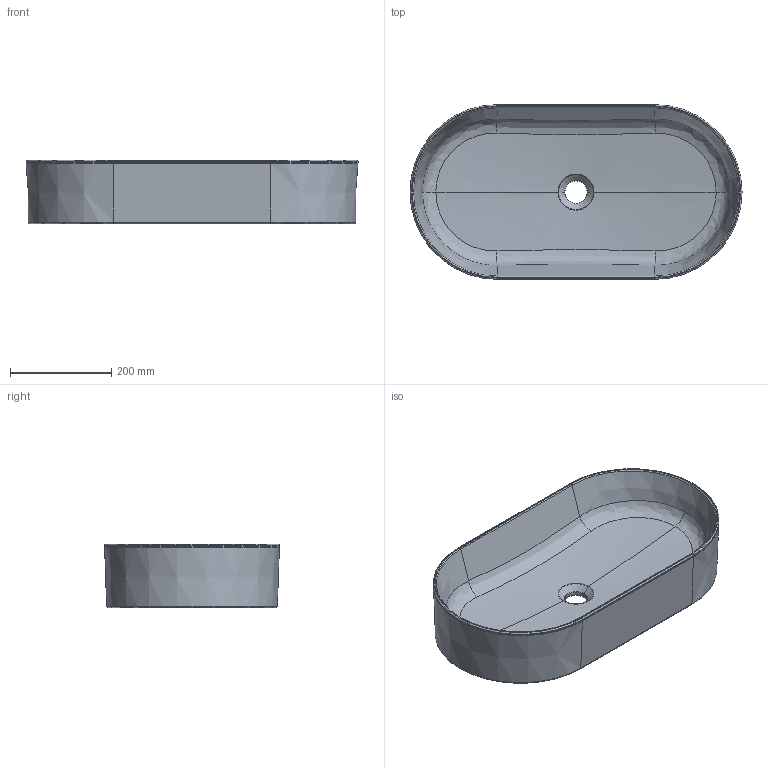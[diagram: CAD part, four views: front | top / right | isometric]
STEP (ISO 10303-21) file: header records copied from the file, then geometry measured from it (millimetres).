
FILE_DESCRIPTION((''),'2;1');
FILE_NAME('41363','2025-03-12T10:51:16',('CLSJ07'),(''),'CREO PARAMETRIC BY PTC INC, 2019010','CREO PARAMETRIC BY PTC INC, 2019010','');
FILE_SCHEMA(('CONFIG_CONTROL_DESIGN'));
Length unit declared in the file: millimetre
Products named in the file (1): 41363
Bounding box: 655 x 345 x 125 mm (x, y, z)
Volume: 7047621.9 mm3; surface area: 708081.1 mm2
Topology: 1 solids, 1 shells, 105 faces, 226 edges, 127 vertices
Faces by surface type: cylinder 24, torus 24, bspline 20, plane 15, cone 10, revolution 8, extrusion 4
Entity records: 4990 total; most frequent: CARTESIAN_POINT 2790, ORIENTED_EDGE 452, DIRECTION 442, EDGE_CURVE 226, AXIS2_PLACEMENT_3D 185, VERTEX_POINT 127, CIRCLE 112, EDGE_LOOP 111
